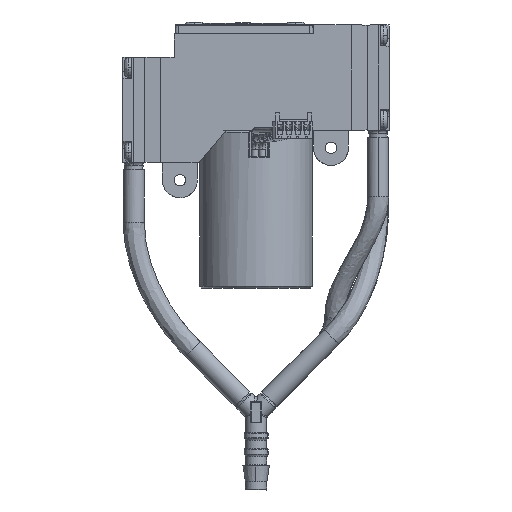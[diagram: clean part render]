
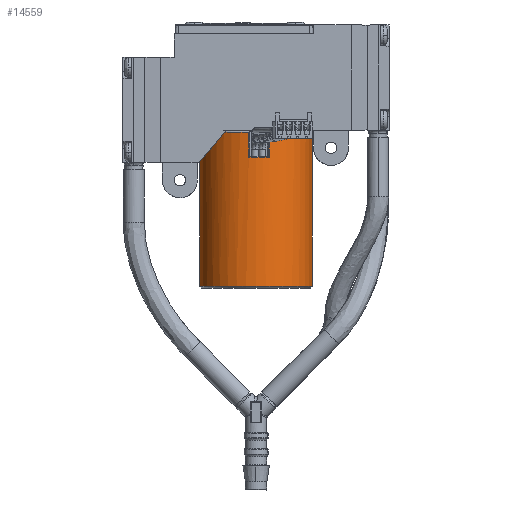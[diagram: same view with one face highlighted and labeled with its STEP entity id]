
A CAD part, left-side view. The second image highlights one B-rep face of the part: STEP entity #14559.
In plain terms, the highlighted cylindrical face has radius 16.05 mm (diameter 32.1 mm), a partial arc.
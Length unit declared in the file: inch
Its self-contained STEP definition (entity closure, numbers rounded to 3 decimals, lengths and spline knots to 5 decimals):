
#690 = CIRCLE ( 'NONE', #67641, 0.63189 ) ;
#2094 = LINE ( 'NONE', #71683, #43252 ) ;
#2581 = DIRECTION ( 'NONE',  ( 0., -1., 0. ) ) ;
#3614 = EDGE_CURVE ( 'NONE', #36778, #74827, #92835, .T. ) ;
#4885 = EDGE_CURVE ( 'NONE', #7165, #11278, #60052, .T. ) ;
#5185 = CARTESIAN_POINT ( 'NONE',  ( 0., 0., 1.68444 ) ) ;
#5792 = VERTEX_POINT ( 'NONE', #68454 ) ;
#6301 = CARTESIAN_POINT ( 'NONE',  ( -0.63189, 0., -1.74803 ) ) ;
#6488 = LINE ( 'NONE', #86526, #75493 ) ;
#7165 = VERTEX_POINT ( 'NONE', #39420 ) ;
#11003 = ORIENTED_EDGE ( 'NONE', *, *, #92685, .T. ) ;
#11278 = VERTEX_POINT ( 'NONE', #62655 ) ;
#12808 = VERTEX_POINT ( 'NONE', #45401 ) ;
#13038 = CARTESIAN_POINT ( 'NONE',  ( 0., 0.63189, 1.68444 ) ) ;
#14559 = ADVANCED_FACE ( 'NONE', ( #29820 ), #68503, .T. ) ;
#15199 = CARTESIAN_POINT ( 'NONE',  ( 0., 0., -0.02362 ) ) ;
#15807 = EDGE_CURVE ( 'NONE', #12808, #7165, #690, .T. ) ;
#17135 = EDGE_CURVE ( 'NONE', #74827, #12808, #6488, .T. ) ;
#21145 = DIRECTION ( 'NONE',  ( 0., 0., 1. ) ) ;
#22962 = DIRECTION ( 'NONE',  ( 0., -1., 0. ) ) ;
#26602 = ORIENTED_EDGE ( 'NONE', *, *, #40537, .T. ) ;
#27002 = DIRECTION ( 'NONE',  ( 0., 0., 1. ) ) ;
#27119 = CARTESIAN_POINT ( 'NONE',  ( 0., -0.63189, -1.74803 ) ) ;
#27189 = CARTESIAN_POINT ( 'NONE',  ( 0., 0., -0.30315 ) ) ;
#29820 = FACE_OUTER_BOUND ( 'NONE', #99165, .T. ) ;
#31831 = CARTESIAN_POINT ( 'NONE',  ( -0.61366, -0.15069, -0.02377 ) ) ;
#32510 = DIRECTION ( 'NONE',  ( 0., 0., 1. ) ) ;
#32753 = ORIENTED_EDGE ( 'NONE', *, *, #99846, .F. ) ;
#33354 = ORIENTED_EDGE ( 'NONE', *, *, #4885, .T. ) ;
#34944 = DIRECTION ( 'NONE',  ( 0., -1., 0. ) ) ;
#36386 = DIRECTION ( 'NONE',  ( 0., 0., 1. ) ) ;
#36778 = VERTEX_POINT ( 'NONE', #6301 ) ;
#38129 = CARTESIAN_POINT ( 'NONE',  ( -0.6266, 0.08158, -0.30315 ) ) ;
#39420 = CARTESIAN_POINT ( 'NONE',  ( -0.61364, -0.15099, -0.02377 ) ) ;
#39834 = AXIS2_PLACEMENT_3D ( 'NONE', #67437, #21145, #75203 ) ;
#40200 = CARTESIAN_POINT ( 'NONE',  ( -0.62667, 0.08193, -0.0237 ) ) ;
#40537 = EDGE_CURVE ( 'NONE', #5792, #36778, #90936, .T. ) ;
#43108 = CARTESIAN_POINT ( 'NONE',  ( 0., 0.63189, -0.02362 ) ) ;
#43252 = VECTOR ( 'NONE', #79400, 39.37008 ) ;
#45401 = CARTESIAN_POINT ( 'NONE',  ( 0., -0.63189, -0.02362 ) ) ;
#47582 = ORIENTED_EDGE ( 'NONE', *, *, #17135, .T. ) ;
#48095 = EDGE_CURVE ( 'NONE', #55230, #66309, #2094, .T. ) ;
#48895 = VERTEX_POINT ( 'NONE', #43108 ) ;
#48948 = DIRECTION ( 'NONE',  ( 0., 0., -1. ) ) ;
#51892 = ORIENTED_EDGE ( 'NONE', *, *, #62922, .T. ) ;
#52358 = AXIS2_PLACEMENT_3D ( 'NONE', #73252, #27002, #80998 ) ;
#53271 = CIRCLE ( 'NONE', #75748, 0.63189 ) ;
#55230 = VERTEX_POINT ( 'NONE', #38129 ) ;
#57849 = AXIS2_PLACEMENT_3D ( 'NONE', #5185, #58982, #82280 ) ;
#58982 = DIRECTION ( 'NONE',  ( 0., 0., 1. ) ) ;
#59098 = VECTOR ( 'NONE', #36386, 39.37008 ) ;
#60052 = LINE ( 'NONE', #31831, #62510 ) ;
#62510 = VECTOR ( 'NONE', #93559, 39.37008 ) ;
#62655 = CARTESIAN_POINT ( 'NONE',  ( -0.61366, -0.15069, -0.30315 ) ) ;
#62922 = EDGE_CURVE ( 'NONE', #66309, #48895, #87128, .T. ) ;
#66309 = VERTEX_POINT ( 'NONE', #40200 ) ;
#67437 = CARTESIAN_POINT ( 'NONE',  ( 0., 0., -1.74803 ) ) ;
#67641 = AXIS2_PLACEMENT_3D ( 'NONE', #95141, #48948, #2581 ) ;
#68454 = CARTESIAN_POINT ( 'NONE',  ( 0., 0.63189, -1.74803 ) ) ;
#68503 = CYLINDRICAL_SURFACE ( 'NONE', #57849, 0.63189 ) ;
#69290 = DIRECTION ( 'NONE',  ( 0., 0., -1. ) ) ;
#71683 = CARTESIAN_POINT ( 'NONE',  ( -0.6266, 0.08158, -0.30315 ) ) ;
#73252 = CARTESIAN_POINT ( 'NONE',  ( 0., 0., -1.74803 ) ) ;
#74827 = VERTEX_POINT ( 'NONE', #27119 ) ;
#75203 = DIRECTION ( 'NONE',  ( 0., -1., 0. ) ) ;
#75493 = VECTOR ( 'NONE', #32510, 39.37008 ) ;
#75748 = AXIS2_PLACEMENT_3D ( 'NONE', #27189, #81209, #34944 ) ;
#78605 = ORIENTED_EDGE ( 'NONE', *, *, #48095, .T. ) ;
#79400 = DIRECTION ( 'NONE',  ( 0., 0., 1. ) ) ;
#79632 = LINE ( 'NONE', #13038, #59098 ) ;
#80998 = DIRECTION ( 'NONE',  ( 0., -1., 0. ) ) ;
#81209 = DIRECTION ( 'NONE',  ( 0., 0., -1. ) ) ;
#82280 = DIRECTION ( 'NONE',  ( 0., -1., 0. ) ) ;
#86526 = CARTESIAN_POINT ( 'NONE',  ( 0., -0.63189, 1.68444 ) ) ;
#87128 = CIRCLE ( 'NONE', #91078, 0.63189 ) ;
#88543 = ORIENTED_EDGE ( 'NONE', *, *, #15807, .T. ) ;
#90936 = CIRCLE ( 'NONE', #52358, 0.63189 ) ;
#91078 = AXIS2_PLACEMENT_3D ( 'NONE', #15199, #69290, #22962 ) ;
#92685 = EDGE_CURVE ( 'NONE', #11278, #55230, #53271, .T. ) ;
#92835 = CIRCLE ( 'NONE', #39834, 0.63189 ) ;
#93559 = DIRECTION ( 'NONE',  ( 0., 0., -1. ) ) ;
#95141 = CARTESIAN_POINT ( 'NONE',  ( 0., 0., -0.02362 ) ) ;
#96749 = ORIENTED_EDGE ( 'NONE', *, *, #3614, .T. ) ;
#99165 = EDGE_LOOP ( 'NONE', ( #32753, #26602, #96749, #47582, #88543, #33354, #11003, #78605, #51892 ) ) ;
#99846 = EDGE_CURVE ( 'NONE', #5792, #48895, #79632, .T. ) ;
